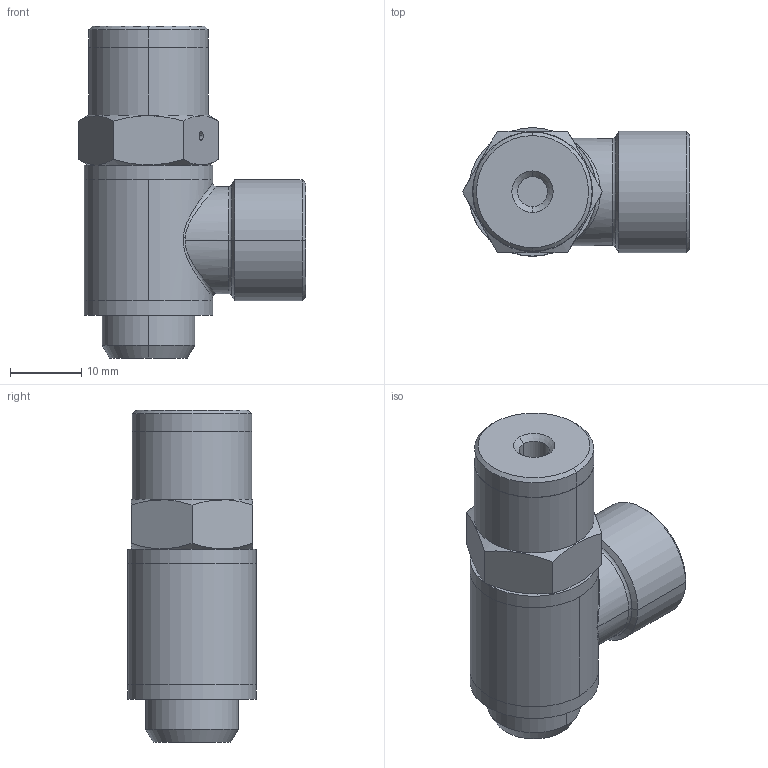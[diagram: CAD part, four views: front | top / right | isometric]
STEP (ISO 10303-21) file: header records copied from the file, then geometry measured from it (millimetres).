
FILE_DESCRIPTION(('Bauteilbeschreibung','HiCAD-Model','HiCAD-STEP-TRANSLATION','Bauteilbeschreibung'),'2;1');
FILE_NAME('B:/ABGLEICH/ZEICHNUNGEN/STEP FÜR INTERNET/STEP/DROSSELHOHLSCHRAUBE MIT RINGSTÜCK IG/304623_DROSSELHOHLSCHRAUBE_RINGSTÜCK_IG_1-4.STP','2012-06-28T09:31:21+00:00',('Konstrukteur'),('Konstrukteur Firma GmbH'),' HiCAD neXt 2008, Step 3.1.1401.2J ','HiCAD neXt 2008','confidential');
FILE_SCHEMA(('AUTOMOTIVE_DESIGN { 1 2 10303 214 0 1 1 1 }'));
Length unit declared in the file: millimetre
Products named in the file (5): A04623_DROSSELHOHLSCHRAUBE_RING; A4350U02; A5320002; A00033; A00043_DTG__1_4_UNV 
Assembly tree (4 placements, depth 2):
  A04623_DROSSELHOHLSCHRAUBE_RING
    A4350U02
    A5320002
    A00033
    A00043_DTG__1_4_UNV 
Bounding box: 31.82 x 18 x 46.5 mm (x, y, z)
Volume: 11075.8 mm3; surface area: 7164.3 mm2
Topology: 4 solids, 4 shells, 153 faces, 322 edges, 190 vertices
Faces by surface type: cylinder 68, cone 38, plane 31, torus 14, bspline 2
Full cylindrical faces by diameter (mm): 13.4 x1, 13.5 x1, 18 x2
Entity records: 7291 total; most frequent: CARTESIAN_POINT 2509, DIRECTION 737, ORIENTED_EDGE 630, EDGE_CURVE 315, AXIS2_PLACEMENT_3D 313, COLOUR_RGB 273, PRESENTATION_STYLE_ASSIGNMENT 273, CURVE_STYLE 269
